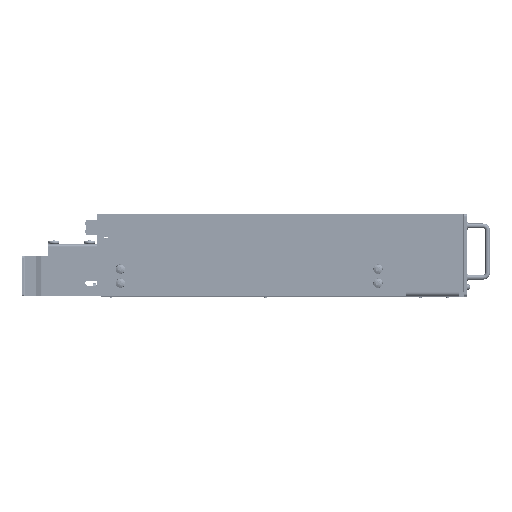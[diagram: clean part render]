
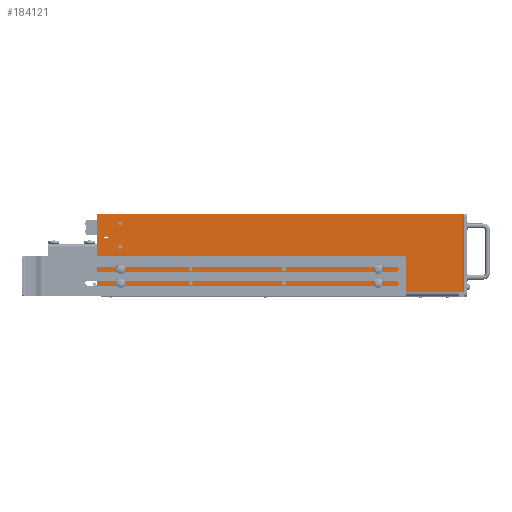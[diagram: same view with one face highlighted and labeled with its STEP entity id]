
A CAD part, left-side view. The second image highlights one B-rep face of the part: STEP entity #184121.
In plain terms, the highlighted planar face has unit normal (-1, 0, 0).
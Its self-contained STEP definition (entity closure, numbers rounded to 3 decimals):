
#11623=FACE_BOUND('',#30134,.T.);
#11624=FACE_BOUND('',#30135,.T.);
#11625=FACE_BOUND('',#30136,.T.);
#11626=FACE_BOUND('',#30137,.T.);
#11627=FACE_BOUND('',#30138,.T.);
#11628=FACE_BOUND('',#30139,.T.);
#11629=FACE_BOUND('',#30140,.T.);
#11630=FACE_BOUND('',#30141,.T.);
#11631=FACE_BOUND('',#30142,.T.);
#11632=FACE_BOUND('',#30143,.T.);
#11633=FACE_BOUND('',#30144,.T.);
#13381=PLANE('',#195508);
#20436=FACE_OUTER_BOUND('',#30133,.T.);
#30133=EDGE_LOOP('',(#130312,#130313,#130314,#130315,#130316,#130317,#130318));
#30134=EDGE_LOOP('',(#130319));
#30135=EDGE_LOOP('',(#130320));
#30136=EDGE_LOOP('',(#130321));
#30137=EDGE_LOOP('',(#130322));
#30138=EDGE_LOOP('',(#130323));
#30139=EDGE_LOOP('',(#130324));
#30140=EDGE_LOOP('',(#130325));
#30141=EDGE_LOOP('',(#130326));
#30142=EDGE_LOOP('',(#130327));
#30143=EDGE_LOOP('',(#130328));
#30144=EDGE_LOOP('',(#130329));
#41566=LINE('',#263235,#61589);
#41568=LINE('',#263240,#61591);
#41571=LINE('',#263247,#61594);
#41574=LINE('',#263252,#61597);
#41582=LINE('',#263272,#61605);
#41583=LINE('',#263275,#61606);
#41584=LINE('',#263276,#61607);
#61589=VECTOR('',#211488,10.);
#61591=VECTOR('',#211492,10.);
#61594=VECTOR('',#211497,10.);
#61597=VECTOR('',#211502,10.);
#61605=VECTOR('',#211522,10.);
#61606=VECTOR('',#211525,10.);
#61607=VECTOR('',#211526,10.);
#81566=CIRCLE('',#195432,2.067);
#81568=CIRCLE('',#195435,2.067);
#81570=CIRCLE('',#195438,2.067);
#81572=CIRCLE('',#195441,2.067);
#81574=CIRCLE('',#195444,2.067);
#81576=CIRCLE('',#195447,2.067);
#81578=CIRCLE('',#195450,2.067);
#81580=CIRCLE('',#195453,2.067);
#81582=CIRCLE('',#195456,2.067);
#81584=CIRCLE('',#195459,2.067);
#81586=CIRCLE('',#195462,2.067);
#87109=VERTEX_POINT('',#263066);
#87111=VERTEX_POINT('',#263072);
#87113=VERTEX_POINT('',#263078);
#87115=VERTEX_POINT('',#263084);
#87117=VERTEX_POINT('',#263090);
#87119=VERTEX_POINT('',#263096);
#87121=VERTEX_POINT('',#263102);
#87123=VERTEX_POINT('',#263108);
#87125=VERTEX_POINT('',#263114);
#87127=VERTEX_POINT('',#263120);
#87129=VERTEX_POINT('',#263126);
#87162=VERTEX_POINT('',#263224);
#87163=VERTEX_POINT('',#263228);
#87165=VERTEX_POINT('',#263239);
#87166=VERTEX_POINT('',#263243);
#87168=VERTEX_POINT('',#263246);
#87175=VERTEX_POINT('',#263270);
#87176=VERTEX_POINT('',#263274);
#104133=EDGE_CURVE('',#87109,#87109,#81566,.T.);
#104136=EDGE_CURVE('',#87111,#87111,#81568,.T.);
#104139=EDGE_CURVE('',#87113,#87113,#81570,.T.);
#104142=EDGE_CURVE('',#87115,#87115,#81572,.T.);
#104145=EDGE_CURVE('',#87117,#87117,#81574,.T.);
#104148=EDGE_CURVE('',#87119,#87119,#81576,.T.);
#104151=EDGE_CURVE('',#87121,#87121,#81578,.T.);
#104154=EDGE_CURVE('',#87123,#87123,#81580,.T.);
#104157=EDGE_CURVE('',#87125,#87125,#81582,.T.);
#104160=EDGE_CURVE('',#87127,#87127,#81584,.T.);
#104163=EDGE_CURVE('',#87129,#87129,#81586,.T.);
#104216=EDGE_CURVE('',#87162,#87163,#41566,.T.);
#104218=EDGE_CURVE('',#87165,#87163,#41568,.T.);
#104221=EDGE_CURVE('',#87168,#87166,#41571,.T.);
#104224=EDGE_CURVE('',#87165,#87166,#41574,.T.);
#104235=EDGE_CURVE('',#87168,#87175,#41582,.T.);
#104236=EDGE_CURVE('',#87162,#87176,#41583,.T.);
#104237=EDGE_CURVE('',#87176,#87175,#41584,.T.);
#130312=ORIENTED_EDGE('',*,*,#104224,.F.);
#130313=ORIENTED_EDGE('',*,*,#104218,.T.);
#130314=ORIENTED_EDGE('',*,*,#104216,.F.);
#130315=ORIENTED_EDGE('',*,*,#104236,.T.);
#130316=ORIENTED_EDGE('',*,*,#104237,.T.);
#130317=ORIENTED_EDGE('',*,*,#104235,.F.);
#130318=ORIENTED_EDGE('',*,*,#104221,.T.);
#130319=ORIENTED_EDGE('',*,*,#104133,.T.);
#130320=ORIENTED_EDGE('',*,*,#104136,.T.);
#130321=ORIENTED_EDGE('',*,*,#104139,.T.);
#130322=ORIENTED_EDGE('',*,*,#104142,.T.);
#130323=ORIENTED_EDGE('',*,*,#104145,.T.);
#130324=ORIENTED_EDGE('',*,*,#104148,.T.);
#130325=ORIENTED_EDGE('',*,*,#104151,.T.);
#130326=ORIENTED_EDGE('',*,*,#104154,.T.);
#130327=ORIENTED_EDGE('',*,*,#104157,.T.);
#130328=ORIENTED_EDGE('',*,*,#104160,.T.);
#130329=ORIENTED_EDGE('',*,*,#104163,.T.);
#184121=ADVANCED_FACE('',(#20436,#11623,#11624,#11625,#11626,#11627,#11628,
#11629,#11630,#11631,#11632,#11633),#13381,.T.);
#195432=AXIS2_PLACEMENT_3D('',#263068,#211308,#211309);
#195435=AXIS2_PLACEMENT_3D('',#263074,#211315,#211316);
#195438=AXIS2_PLACEMENT_3D('',#263080,#211322,#211323);
#195441=AXIS2_PLACEMENT_3D('',#263086,#211329,#211330);
#195444=AXIS2_PLACEMENT_3D('',#263092,#211336,#211337);
#195447=AXIS2_PLACEMENT_3D('',#263098,#211343,#211344);
#195450=AXIS2_PLACEMENT_3D('',#263104,#211350,#211351);
#195453=AXIS2_PLACEMENT_3D('',#263110,#211357,#211358);
#195456=AXIS2_PLACEMENT_3D('',#263116,#211364,#211365);
#195459=AXIS2_PLACEMENT_3D('',#263122,#211371,#211372);
#195462=AXIS2_PLACEMENT_3D('',#263128,#211378,#211379);
#195508=AXIS2_PLACEMENT_3D('',#263273,#211523,#211524);
#211308=DIRECTION('center_axis',(1.,0.,0.));
#211309=DIRECTION('ref_axis',(0.,0.,
1.));
#211315=DIRECTION('center_axis',(1.,0.,0.));
#211316=DIRECTION('ref_axis',(0.,0.,
1.));
#211322=DIRECTION('center_axis',(1.,0.,0.));
#211323=DIRECTION('ref_axis',(0.,0.,
1.));
#211329=DIRECTION('center_axis',(1.,0.,0.));
#211330=DIRECTION('ref_axis',(0.,0.,
1.));
#211336=DIRECTION('center_axis',(1.,0.,0.));
#211337=DIRECTION('ref_axis',(0.,0.,
1.));
#211343=DIRECTION('center_axis',(1.,0.,0.));
#211344=DIRECTION('ref_axis',(0.,0.,
1.));
#211350=DIRECTION('center_axis',(1.,0.,0.));
#211351=DIRECTION('ref_axis',(0.,0.,
1.));
#211357=DIRECTION('center_axis',(1.,0.,0.));
#211358=DIRECTION('ref_axis',(0.,0.,
1.));
#211364=DIRECTION('center_axis',(1.,0.,0.));
#211365=DIRECTION('ref_axis',(0.,0.,
1.));
#211371=DIRECTION('center_axis',(1.,0.,0.));
#211372=DIRECTION('ref_axis',(0.,0.,
1.));
#211378=DIRECTION('center_axis',(1.,0.,0.));
#211379=DIRECTION('ref_axis',(0.,0.,
1.));
#211488=DIRECTION('',(0.,0.,-1.));
#211492=DIRECTION('',(0.,-1.,0.));
#211497=DIRECTION('',(0.,0.,-1.));
#211502=DIRECTION('',(0.,1.,0.));
#211522=DIRECTION('',(0.,1.,0.));
#211523=DIRECTION('center_axis',(-1.,0.,0.));
#211524=DIRECTION('ref_axis',(0.,0.,1.));
#211525=DIRECTION('',(0.,1.,0.));
#211526=DIRECTION('',(0.,0.,-1.));
#263066=CARTESIAN_POINT('',(-223.,-104.,9.233));
#263068=CARTESIAN_POINT('Origin',(-223.,-104.,11.3));
#263072=CARTESIAN_POINT('',(-223.,-4.,9.233));
#263074=CARTESIAN_POINT('Origin',(-223.,-4.,11.3));
#263078=CARTESIAN_POINT('',(-223.,96.,9.233));
#263080=CARTESIAN_POINT('Origin',(-223.,96.,11.3));
#263084=CARTESIAN_POINT('',(-223.,171.,9.233));
#263086=CARTESIAN_POINT('Origin',(-223.,171.,11.3));
#263090=CARTESIAN_POINT('',(-223.,171.,47.933));
#263092=CARTESIAN_POINT('Origin',(-223.,171.,50.));
#263096=CARTESIAN_POINT('',(-223.,171.,72.933));
#263098=CARTESIAN_POINT('Origin',(-223.,171.,75.));
#263102=CARTESIAN_POINT('',(-223.,171.,24.233));
#263104=CARTESIAN_POINT('Origin',(-223.,171.,26.3));
#263108=CARTESIAN_POINT('',(-223.,96.,24.233));
#263110=CARTESIAN_POINT('Origin',(-223.,96.,26.3));
#263114=CARTESIAN_POINT('',(-223.,-4.,24.233));
#263116=CARTESIAN_POINT('Origin',(-223.,-4.,26.3));
#263120=CARTESIAN_POINT('',(-223.,-104.,24.233));
#263122=CARTESIAN_POINT('Origin',(-223.,-104.,26.3));
#263126=CARTESIAN_POINT('',(-223.,186.,57.933));
#263128=CARTESIAN_POINT('Origin',(-223.,186.,60.));
#263224=CARTESIAN_POINT('',(-223.,-194.5,85.));
#263228=CARTESIAN_POINT('',(-223.,-194.5,1.5));
#263235=CARTESIAN_POINT('',(-223.,-194.5,85.));
#263239=CARTESIAN_POINT('',(-223.,-190.,1.5));
#263240=CARTESIAN_POINT('',(-223.,-190.,1.5));
#263243=CARTESIAN_POINT('',(-223.,191.5,1.5));
#263246=CARTESIAN_POINT('',(-223.,191.5,3.));
#263247=CARTESIAN_POINT('',(-223.,191.5,-2.93));
#263252=CARTESIAN_POINT('',(-223.,1.489,1.5));
#263270=CARTESIAN_POINT('',(-223.,196.,3.));
#263272=CARTESIAN_POINT('',(-223.,97.239,3.));
#263273=CARTESIAN_POINT('Origin',(-223.,2.979,41.056));
#263274=CARTESIAN_POINT('',(-223.,196.,85.));
#263275=CARTESIAN_POINT('',(-223.,-190.,85.));
#263276=CARTESIAN_POINT('',(-223.,196.,1.5));
